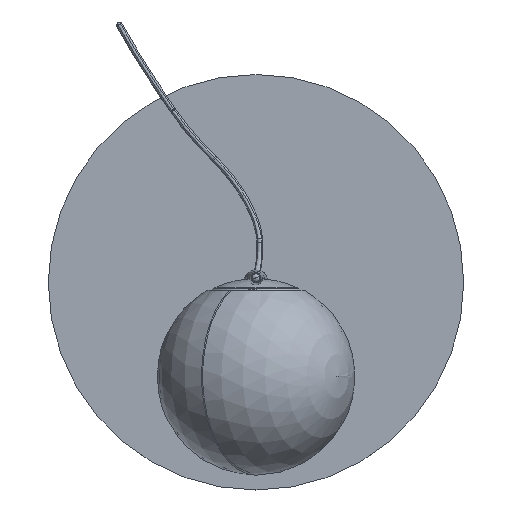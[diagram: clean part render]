
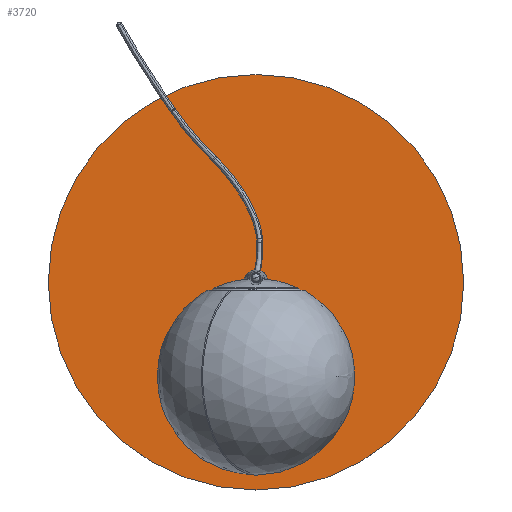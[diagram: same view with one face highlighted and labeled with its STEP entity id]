
A CAD part, top view. The second image highlights one B-rep face of the part: STEP entity #3720.
In plain terms, the highlighted planar face has unit normal (0, 0, 1).
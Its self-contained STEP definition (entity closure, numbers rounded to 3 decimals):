
#60 = ORIENTED_EDGE ( 'NONE', *, *, #1686, .F. ) ;
#252 = DIRECTION ( 'NONE',  ( 0., 0., 1. ) ) ;
#399 = AXIS2_PLACEMENT_3D ( 'NONE', #5745, #252, #5880 ) ;
#411 = CIRCLE ( 'NONE', #1221, 210. ) ;
#535 = CIRCLE ( 'NONE', #3061, 210. ) ;
#565 = DIRECTION ( 'NONE',  ( 0., 0., 1. ) ) ;
#767 = PLANE ( 'NONE',  #2943 ) ;
#868 = AXIS2_PLACEMENT_3D ( 'NONE', #4694, #6859, #6326 ) ;
#921 = VERTEX_POINT ( 'NONE', #6018 ) ;
#1221 = AXIS2_PLACEMENT_3D ( 'NONE', #5947, #565, #5434 ) ;
#1686 = EDGE_CURVE ( 'NONE', #6579, #921, #3509, .T. ) ;
#1753 = EDGE_CURVE ( 'NONE', #921, #6579, #6295, .T. ) ;
#1860 = EDGE_LOOP ( 'NONE', ( #1935, #60 ) ) ;
#1935 = ORIENTED_EDGE ( 'NONE', *, *, #1753, .F. ) ;
#1984 = ORIENTED_EDGE ( 'NONE', *, *, #3136, .T. ) ;
#2049 = CARTESIAN_POINT ( 'NONE',  ( -210., 0., 3. ) ) ;
#2943 = AXIS2_PLACEMENT_3D ( 'NONE', #6694, #6156, #3405 ) ;
#2948 = CARTESIAN_POINT ( 'NONE',  ( 0., 0., 3. ) ) ;
#3061 = AXIS2_PLACEMENT_3D ( 'NONE', #2948, #6703, #6243 ) ;
#3136 = EDGE_CURVE ( 'NONE', #4847, #4695, #411, .T. ) ;
#3405 = DIRECTION ( 'NONE',  ( 1., 0., 0. ) ) ;
#3509 = CIRCLE ( 'NONE', #399, 6.3 ) ;
#3570 = ORIENTED_EDGE ( 'NONE', *, *, #5128, .T. ) ;
#3720 = ADVANCED_FACE ( 'NONE', ( #5200, #5539 ), #767, .T. ) ;
#4358 = CARTESIAN_POINT ( 'NONE',  ( 210., 0., 3. ) ) ;
#4694 = CARTESIAN_POINT ( 'NONE',  ( 0., 0., 3. ) ) ;
#4695 = VERTEX_POINT ( 'NONE', #2049 ) ;
#4847 = VERTEX_POINT ( 'NONE', #4358 ) ;
#5128 = EDGE_CURVE ( 'NONE', #4695, #4847, #535, .T. ) ;
#5200 = FACE_BOUND ( 'NONE', #1860, .T. ) ;
#5434 = DIRECTION ( 'NONE',  ( 1., 0., 0. ) ) ;
#5539 = FACE_OUTER_BOUND ( 'NONE', #6558, .T. ) ;
#5670 = CARTESIAN_POINT ( 'NONE',  ( -6.3, 0., 3. ) ) ;
#5745 = CARTESIAN_POINT ( 'NONE',  ( 0., 0., 3. ) ) ;
#5880 = DIRECTION ( 'NONE',  ( 1., 0., 0. ) ) ;
#5947 = CARTESIAN_POINT ( 'NONE',  ( 0., 0., 3. ) ) ;
#6018 = CARTESIAN_POINT ( 'NONE',  ( 6.3, 0., 3. ) ) ;
#6156 = DIRECTION ( 'NONE',  ( 0., 0., 1. ) ) ;
#6243 = DIRECTION ( 'NONE',  ( 1., 0., 0. ) ) ;
#6295 = CIRCLE ( 'NONE', #868, 6.3 ) ;
#6326 = DIRECTION ( 'NONE',  ( 1., 0., 0. ) ) ;
#6558 = EDGE_LOOP ( 'NONE', ( #3570, #1984 ) ) ;
#6579 = VERTEX_POINT ( 'NONE', #5670 ) ;
#6694 = CARTESIAN_POINT ( 'NONE',  ( 0., 0., 3. ) ) ;
#6703 = DIRECTION ( 'NONE',  ( 0., 0., 1. ) ) ;
#6859 = DIRECTION ( 'NONE',  ( 0., 0., 1. ) ) ;
